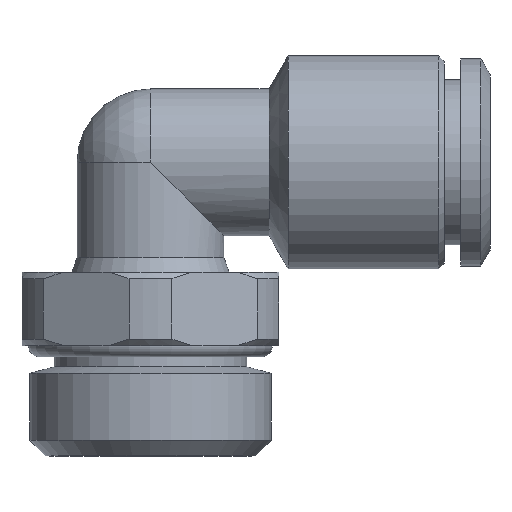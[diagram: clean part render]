
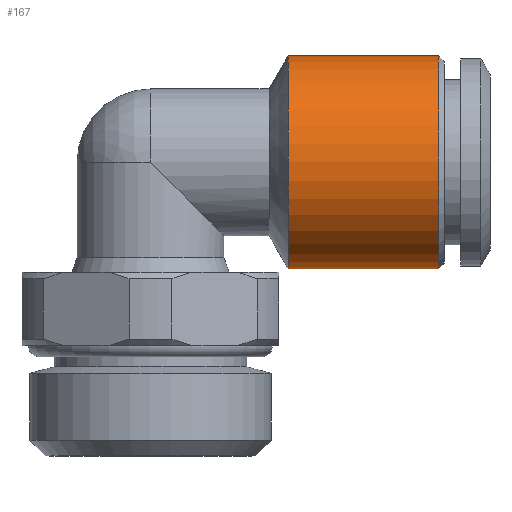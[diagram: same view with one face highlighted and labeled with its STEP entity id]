
A CAD part, top view. The second image highlights one B-rep face of the part: STEP entity #167.
In plain terms, the highlighted cylindrical face has radius 5.8 mm (diameter 11.6 mm), a full revolution.
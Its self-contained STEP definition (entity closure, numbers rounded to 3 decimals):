
#167=ADVANCED_FACE('',(#357,#358),#359,.T.);
#357=FACE_OUTER_BOUND('',#550,.T.);
#358=FACE_OUTER_BOUND('',#551,.T.);
#359=CYLINDRICAL_SURFACE('',#552,5.8);
#550=EDGE_LOOP('',(#934));
#551=EDGE_LOOP('',(#935));
#552=AXIS2_PLACEMENT_3D('',#936,#937,#938);
#934=ORIENTED_EDGE('',*,*,#1139,.T.);
#935=ORIENTED_EDGE('',*,*,#1119,.F.);
#936=CARTESIAN_POINT('',(-4.0,0.,0.0));
#937=DIRECTION('',(1.0,0.,0.0));
#938=DIRECTION('',(0.,-1.0,0.0));
#1119=EDGE_CURVE('',#1339,#1339,#1340,.F.);
#1139=EDGE_CURVE('',#1367,#1367,#1368,.T.);
#1339=VERTEX_POINT('',#1690);
#1340=CIRCLE('',#1691,5.8);
#1367=VERTEX_POINT('',#1718);
#1368=CIRCLE('',#1719,5.8);
#1690=CARTESIAN_POINT('',(7.5,5.8,0.));
#1691=AXIS2_PLACEMENT_3D('',#1885,#1886,#1887);
#1718=CARTESIAN_POINT('',(15.7,-5.8,0.0));
#1719=AXIS2_PLACEMENT_3D('',#1909,#1910,#1911);
#1885=CARTESIAN_POINT('',(7.5,0.,0.0));
#1886=DIRECTION('',(1.0,0.,0.0));
#1887=DIRECTION('',(0.,1.0,0.0));
#1909=CARTESIAN_POINT('',(15.7,0.,0.0));
#1910=DIRECTION('',(-1.0,0.,0.0));
#1911=DIRECTION('',(0.,-1.0,0.0));
